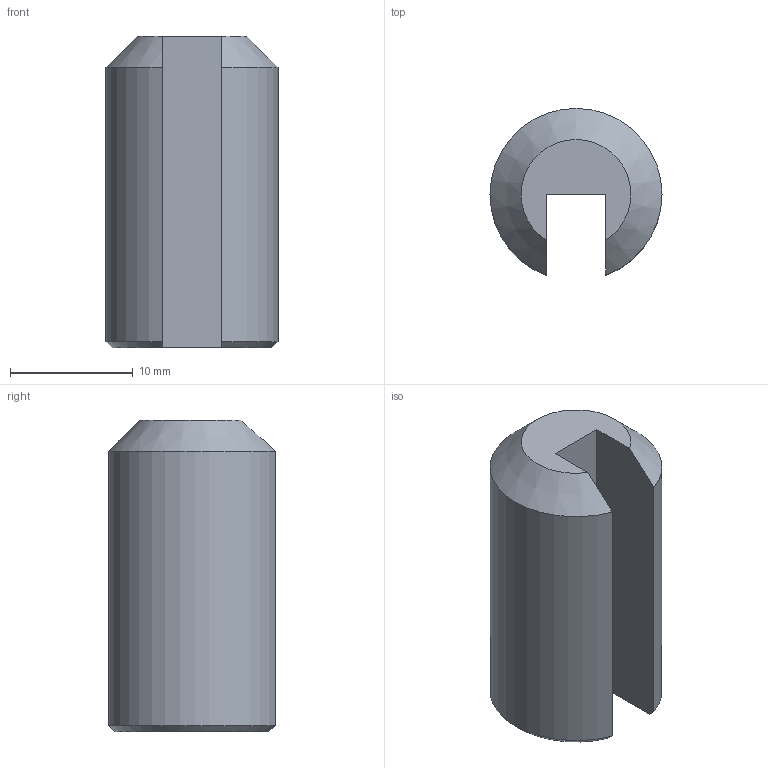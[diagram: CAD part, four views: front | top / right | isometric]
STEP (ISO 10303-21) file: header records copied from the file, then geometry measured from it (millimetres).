
FILE_DESCRIPTION(/* description */ ('Alibre Inc.'),/* implementation_level */ '2;1');
FILE_NAME(/* name */ 'export0',/* time_stamp */ '2015-08-06T09:13:45-04:00',/* author */ (''),/* organization */ (''),/* preprocessor_version */ 'ST-DEVELOPER v14',/* originating_system */ 'Alibre',/* authorisation */ '');
FILE_SCHEMA (('CONFIG_CONTROL_DESIGN'));
Length unit declared in the file: centimetre
Products named in the file (1): ID_1
Bounding box: 14.02 x 13.59 x 25.4 mm (x, y, z)
Volume: 2967.9 mm3; surface area: 1607.4 mm2
Topology: 1 solids, 1 shells, 8 faces, 18 edges, 12 vertices
Faces by surface type: plane 5, cone 2, cylinder 1
Entity records: 302 total; most frequent: CARTESIAN_POINT 46, ORIENTED_EDGE 36, DIRECTION 29, EDGE_CURVE 18, VERTEX_POINT 12, AXIS2_PLACEMENT_3D 12, VECTOR 10, LINE 10
